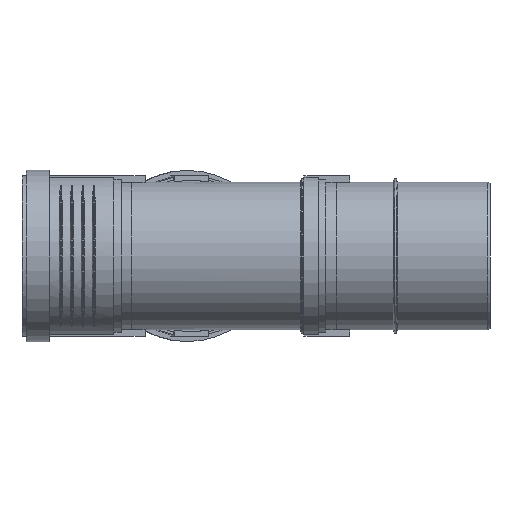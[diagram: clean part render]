
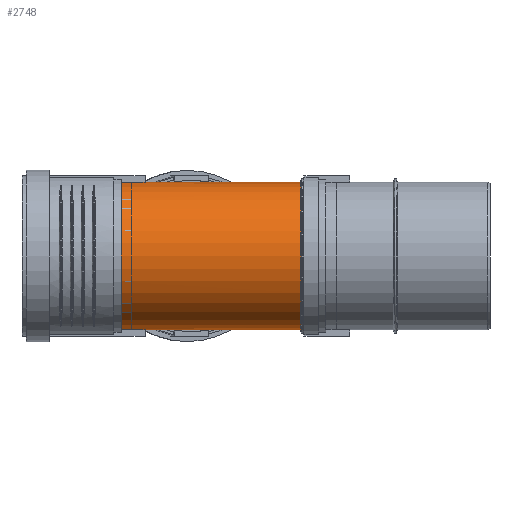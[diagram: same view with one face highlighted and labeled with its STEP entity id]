
A CAD part, left-side view. The second image highlights one B-rep face of the part: STEP entity #2748.
In plain terms, the highlighted cylindrical face has radius 55.1 mm (diameter 110.2 mm), a full revolution.
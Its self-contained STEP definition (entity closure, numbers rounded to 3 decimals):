
#340=B_SPLINE_CURVE_WITH_KNOTS($,3,(#5389,#5390,#5391,#5392,#5393,#5394,
#5395,#5396,#5397,#5398,#5399,#5400,#5401,#5402,#5403,#5404,#5405,#5406,
#5407,#5408,#5409,#5410,#5411,#5412,#5413,#5414,#5415,#5416,#5417,#5418,
#5419,#5420,#5421,#5422,#5423,#5424,#5425,#5426,#5427,#5428,#5429,#5430,
#5431,#5432),.UNSPECIFIED.,.F.,.F.,(4,2,2,2,2,2,2,2,2,2,2,2,2,2,2,2,2,2,
2,2,2,4),(0.,1.202,2.458,3.4,4.559,
6.655,10.232,13.771,16.647,18.787,
20.115,21.302,22.828,25.256,27.754,
31.699,35.476,37.517,38.799,40.055,
41.233,42.481),.UNSPECIFIED.);
#534=CYLINDRICAL_SURFACE($,#3016,55.1);
#614=FACE_BOUND($,#951,.T.);
#741=FACE_OUTER_BOUND($,#950,.T.);
#950=EDGE_LOOP($,(#2204,#2205));
#951=EDGE_LOOP($,(#2206));
#1124=CIRCLE($,#3017,55.1);
#1125=CIRCLE($,#3018,55.1);
#1329=VERTEX_POINT($,#5365);
#1330=VERTEX_POINT($,#5366);
#1332=VERTEX_POINT($,#5438);
#1644=EDGE_CURVE($,#1330,#1329,#340,.T.);
#1646=EDGE_CURVE($,#1329,#1330,#1124,.T.);
#1647=EDGE_CURVE($,#1332,#1332,#1125,.T.);
#2204=ORIENTED_EDGE($,*,*,#1644,.T.);
#2205=ORIENTED_EDGE($,*,*,#1646,.T.);
#2206=ORIENTED_EDGE($,*,*,#1647,.F.);
#2748=ADVANCED_FACE($,(#741,#614),#534,.T.);
#3016=AXIS2_PLACEMENT_3D($,#5436,#3602,#3603);
#3017=AXIS2_PLACEMENT_3D($,#5437,#3604,#3605);
#3018=AXIS2_PLACEMENT_3D($,#5439,#3606,#3607);
#3602=DIRECTION('center_axis',(0.,1.,0.));
#3603=DIRECTION('ref_axis',(-1.,0.,0.));
#3604=DIRECTION('center_axis',(0.,1.,0.));
#3605=DIRECTION('ref_axis',(-1.,0.,0.));
#3606=DIRECTION('center_axis',(0.,1.,0.));
#3607=DIRECTION('ref_axis',(-1.,0.,0.));
#5365=CARTESIAN_POINT('',(34.721,71.6,-42.784));
#5366=CARTESIAN_POINT('',(34.721,71.6,42.784));
#5389=CARTESIAN_POINT('Ctrl Pts',(34.721,71.6,42.784));
#5390=CARTESIAN_POINT('Ctrl Pts',(31.767,72.854,45.181));
#5391=CARTESIAN_POINT('Ctrl Pts',(28.835,74.32,47.052));
#5392=CARTESIAN_POINT('Ctrl Pts',(23.337,77.963,50.016));
#5393=CARTESIAN_POINT('Ctrl Pts',(20.698,80.231,51.115));
#5394=CARTESIAN_POINT('Ctrl Pts',(16.952,85.337,52.455));
#5395=CARTESIAN_POINT('Ctrl Pts',(15.741,87.74,52.811));
#5396=CARTESIAN_POINT('Ctrl Pts',(13.818,93.595,53.351));
#5397=CARTESIAN_POINT('Ctrl Pts',(13.329,97.032,53.464));
#5398=CARTESIAN_POINT('Ctrl Pts',(12.948,106.582,53.558));
#5399=CARTESIAN_POINT('Ctrl Pts',(13.835,113.182,53.351));
#5400=CARTESIAN_POINT('Ctrl Pts',(17.236,129.435,52.382));
#5401=CARTESIAN_POINT('Ctrl Pts',(20.995,140.51,51.201));
#5402=CARTESIAN_POINT('Ctrl Pts',(30.042,161.737,46.468));
#5403=CARTESIAN_POINT('Ctrl Pts',(35.016,171.274,43.063));
#5404=CARTESIAN_POINT('Ctrl Pts',(43.414,185.979,34.361));
#5405=CARTESIAN_POINT('Ctrl Pts',(46.697,191.202,29.795));
#5406=CARTESIAN_POINT('Ctrl Pts',(51.144,198.079,20.933));
#5407=CARTESIAN_POINT('Ctrl Pts',(52.757,200.478,16.633));
#5408=CARTESIAN_POINT('Ctrl Pts',(54.463,202.99,8.888));
#5409=CARTESIAN_POINT('Ctrl Pts',(54.886,203.604,5.8));
#5410=CARTESIAN_POINT('Ctrl Pts',(55.173,204.021,-0.209));
#5411=CARTESIAN_POINT('Ctrl Pts',(55.088,203.899,-3.043));
#5412=CARTESIAN_POINT('Ctrl Pts',(54.406,202.905,-9.435));
#5413=CARTESIAN_POINT('Ctrl Pts',(53.683,201.849,-12.861));
#5414=CARTESIAN_POINT('Ctrl Pts',(51.144,198.067,-21.187));
#5415=CARTESIAN_POINT('Ctrl Pts',(48.848,194.608,-26.032));
#5416=CARTESIAN_POINT('Ctrl Pts',(42.941,185.109,-34.95));
#5417=CARTESIAN_POINT('Ctrl Pts',(39.63,179.503,-38.519));
#5418=CARTESIAN_POINT('Ctrl Pts',(31.364,164.271,-45.802));
#5419=CARTESIAN_POINT('Ctrl Pts',(26.368,153.842,-48.585));
#5420=CARTESIAN_POINT('Ctrl Pts',(18.407,132.909,-52.109));
#5421=CARTESIAN_POINT('Ctrl Pts',(15.384,122.481,-52.928));
#5422=CARTESIAN_POINT('Ctrl Pts',(13.24,107.973,-53.491));
#5423=CARTESIAN_POINT('Ctrl Pts',(12.861,102.471,-53.581));
#5424=CARTESIAN_POINT('Ctrl Pts',(13.771,94.102,-53.353));
#5425=CARTESIAN_POINT('Ctrl Pts',(14.502,90.919,-53.174));
#5426=CARTESIAN_POINT('Ctrl Pts',(17.064,85.052,-52.408));
#5427=CARTESIAN_POINT('Ctrl Pts',(18.786,82.551,-51.85));
#5428=CARTESIAN_POINT('Ctrl Pts',(22.932,78.312,-50.148));
#5429=CARTESIAN_POINT('Ctrl Pts',(25.181,76.654,-49.081));
#5430=CARTESIAN_POINT('Ctrl Pts',(29.904,73.779,-46.364));
#5431=CARTESIAN_POINT('Ctrl Pts',(32.367,72.599,-44.695));
#5432=CARTESIAN_POINT('Ctrl Pts',(34.721,71.6,-42.784));
#5436=CARTESIAN_POINT('Origin',(0.,141.69,0.));
#5437=CARTESIAN_POINT('Origin',(0.,71.6,0.));
#5438=CARTESIAN_POINT('',(-55.1,211.78,0.));
#5439=CARTESIAN_POINT('Origin',(0.,211.78,0.));
